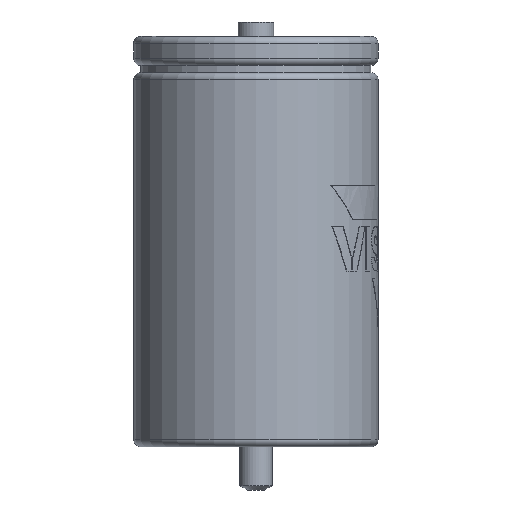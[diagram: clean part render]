
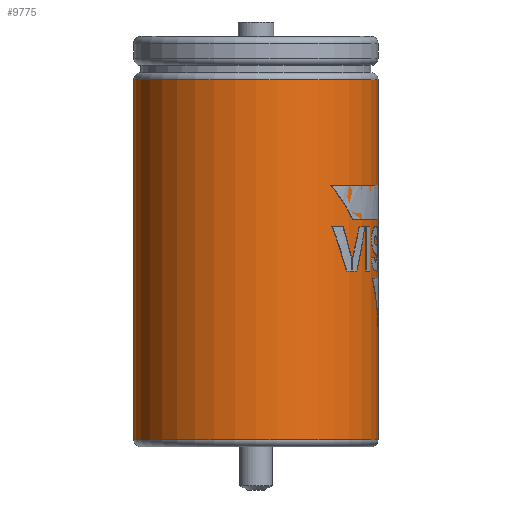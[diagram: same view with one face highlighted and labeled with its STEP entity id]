
A CAD part, left-side view. The second image highlights one B-rep face of the part: STEP entity #9775.
In plain terms, the highlighted cylindrical face has radius 44.7 mm (diameter 89.4 mm), a full revolution.
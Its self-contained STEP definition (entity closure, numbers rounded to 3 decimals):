
#9708 = TOROIDAL_SURFACE('',#9709,42.1,2.6);
#9709 = AXIS2_PLACEMENT_3D('',#9710,#9711,#9712);
#9710 = CARTESIAN_POINT('',(0.,0.,-144.9));
#9711 = DIRECTION('',(0.,0.,1.));
#9712 = DIRECTION('',(1.,0.,0.));
#9725 = VERTEX_POINT('',#9726);
#9726 = CARTESIAN_POINT('',(44.7,0.,-144.9));
#9748 = EDGE_CURVE('',#9725,#9725,#9749,.T.);
#9749 = SURFACE_CURVE('',#9750,(#9755,#9762),.PCURVE_S1.);
#9750 = CIRCLE('',#9751,44.7);
#9751 = AXIS2_PLACEMENT_3D('',#9752,#9753,#9754);
#9752 = CARTESIAN_POINT('',(0.,0.,-144.9));
#9753 = DIRECTION('',(-0.,0.,1.));
#9754 = DIRECTION('',(1.,0.,0.));
#9755 = PCURVE('',#9708,#9756);
#9756 = DEFINITIONAL_REPRESENTATION('',(#9757),#9761);
#9757 = LINE('',#9758,#9759);
#9758 = CARTESIAN_POINT('',(0.,6.283));
#9759 = VECTOR('',#9760,1.);
#9760 = DIRECTION('',(1.,0.));
#9761 = ( GEOMETRIC_REPRESENTATION_CONTEXT(2) 
PARAMETRIC_REPRESENTATION_CONTEXT() REPRESENTATION_CONTEXT('2D SPACE',''
  ) );
#9762 = PCURVE('',#9763,#9768);
#9763 = CYLINDRICAL_SURFACE('',#9764,44.7);
#9764 = AXIS2_PLACEMENT_3D('',#9765,#9766,#9767);
#9765 = CARTESIAN_POINT('',(0.,0.,-144.9));
#9766 = DIRECTION('',(0.,0.,1.));
#9767 = DIRECTION('',(1.,0.,0.));
#9768 = DEFINITIONAL_REPRESENTATION('',(#9769),#9773);
#9769 = LINE('',#9770,#9771);
#9770 = CARTESIAN_POINT('',(0.,0.));
#9771 = VECTOR('',#9772,1.);
#9772 = DIRECTION('',(1.,0.));
#9773 = ( GEOMETRIC_REPRESENTATION_CONTEXT(2) 
PARAMETRIC_REPRESENTATION_CONTEXT() REPRESENTATION_CONTEXT('2D SPACE',''
  ) );
#9775 = ADVANCED_FACE('',(#9776),#9763,.T.);
#9776 = FACE_BOUND('',#9777,.T.);
#9777 = EDGE_LOOP('',(#9778,#9779,#9802,#9829));
#9778 = ORIENTED_EDGE('',*,*,#9748,.T.);
#9779 = ORIENTED_EDGE('',*,*,#9780,.T.);
#9780 = EDGE_CURVE('',#9725,#9781,#9783,.T.);
#9781 = VERTEX_POINT('',#9782);
#9782 = CARTESIAN_POINT('',(44.7,0.,-13.2));
#9783 = SEAM_CURVE('',#9784,(#9788,#9795),.PCURVE_S1.);
#9784 = LINE('',#9785,#9786);
#9785 = CARTESIAN_POINT('',(44.7,0.,-144.9));
#9786 = VECTOR('',#9787,1.);
#9787 = DIRECTION('',(0.,0.,1.));
#9788 = PCURVE('',#9763,#9789);
#9789 = DEFINITIONAL_REPRESENTATION('',(#9790),#9794);
#9790 = LINE('',#9791,#9792);
#9791 = CARTESIAN_POINT('',(0.,0.));
#9792 = VECTOR('',#9793,1.);
#9793 = DIRECTION('',(0.,1.));
#9794 = ( GEOMETRIC_REPRESENTATION_CONTEXT(2) 
PARAMETRIC_REPRESENTATION_CONTEXT() REPRESENTATION_CONTEXT('2D SPACE',''
  ) );
#9795 = PCURVE('',#9763,#9796);
#9796 = DEFINITIONAL_REPRESENTATION('',(#9797),#9801);
#9797 = LINE('',#9798,#9799);
#9798 = CARTESIAN_POINT('',(6.283,0.));
#9799 = VECTOR('',#9800,1.);
#9800 = DIRECTION('',(0.,1.));
#9801 = ( GEOMETRIC_REPRESENTATION_CONTEXT(2) 
PARAMETRIC_REPRESENTATION_CONTEXT() REPRESENTATION_CONTEXT('2D SPACE',''
  ) );
#9802 = ORIENTED_EDGE('',*,*,#9803,.F.);
#9803 = EDGE_CURVE('',#9781,#9781,#9804,.T.);
#9804 = SURFACE_CURVE('',#9805,(#9810,#9817),.PCURVE_S1.);
#9805 = CIRCLE('',#9806,44.7);
#9806 = AXIS2_PLACEMENT_3D('',#9807,#9808,#9809);
#9807 = CARTESIAN_POINT('',(0.,0.,-13.2));
#9808 = DIRECTION('',(-0.,0.,1.));
#9809 = DIRECTION('',(1.,0.,0.));
#9810 = PCURVE('',#9763,#9811);
#9811 = DEFINITIONAL_REPRESENTATION('',(#9812),#9816);
#9812 = LINE('',#9813,#9814);
#9813 = CARTESIAN_POINT('',(0.,131.7));
#9814 = VECTOR('',#9815,1.);
#9815 = DIRECTION('',(1.,0.));
#9816 = ( GEOMETRIC_REPRESENTATION_CONTEXT(2) 
PARAMETRIC_REPRESENTATION_CONTEXT() REPRESENTATION_CONTEXT('2D SPACE',''
  ) );
#9817 = PCURVE('',#9818,#9823);
#9818 = TOROIDAL_SURFACE('',#9819,42.1,2.6);
#9819 = AXIS2_PLACEMENT_3D('',#9820,#9821,#9822);
#9820 = CARTESIAN_POINT('',(0.,0.,-13.2));
#9821 = DIRECTION('',(0.,0.,1.));
#9822 = DIRECTION('',(1.,0.,0.));
#9823 = DEFINITIONAL_REPRESENTATION('',(#9824),#9828);
#9824 = LINE('',#9825,#9826);
#9825 = CARTESIAN_POINT('',(0.,0.));
#9826 = VECTOR('',#9827,1.);
#9827 = DIRECTION('',(1.,0.));
#9828 = ( GEOMETRIC_REPRESENTATION_CONTEXT(2) 
PARAMETRIC_REPRESENTATION_CONTEXT() REPRESENTATION_CONTEXT('2D SPACE',''
  ) );
#9829 = ORIENTED_EDGE('',*,*,#9780,.F.);
